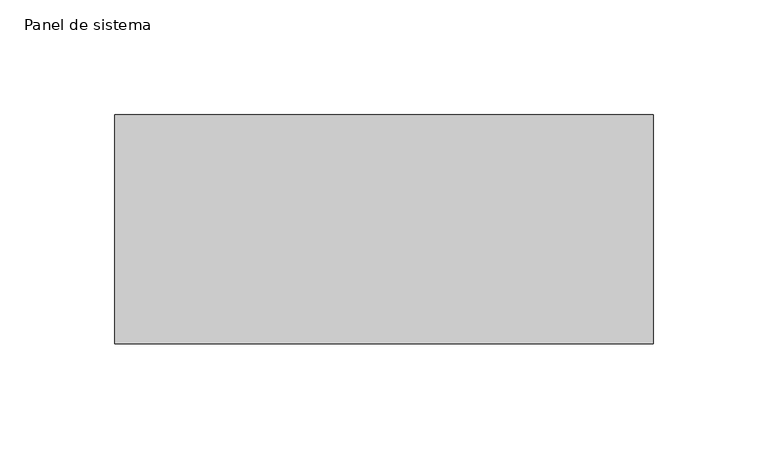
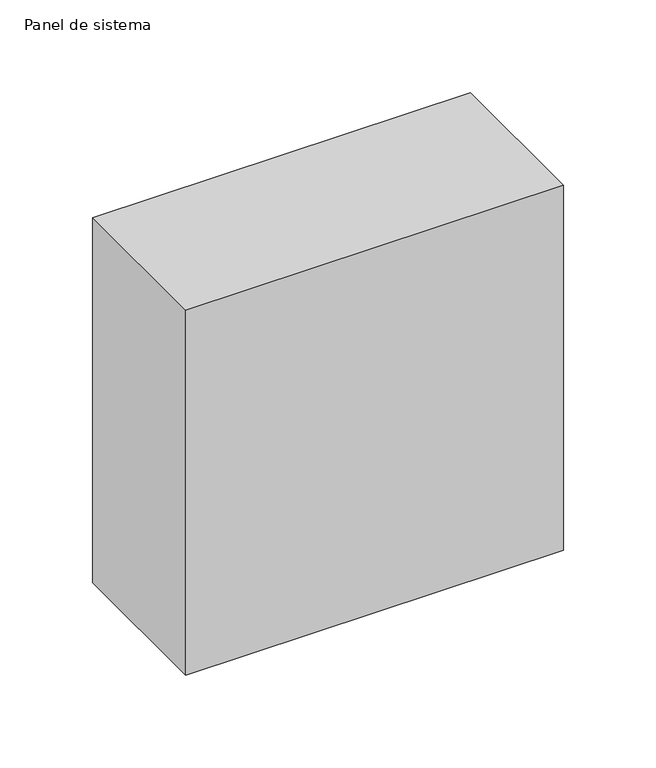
"""IFC4 building model written with IfcOpenShell, lengths in millimetres: plate geometry, Panel de sistema : PAVES."""

import ifcopenshell
import ifcopenshell.guid

model = None  # the IFC model being written
_history = None  # IfcOwnerHistory: only IFC2X3 demands one
_inside = {}  # id of a spatial element -> (the spatial element, [elements in it])
_under = {}  # id of a project, library or spatial element -> (it, [spatial elements below it])
_declared = {}  # id of a project -> (the project, [libraries it declares])
_typed = {}  # id of a type object -> (the type object, [elements of that type])
_made_of = {}  # id of a material, layer set ... -> (it, [elements and type objects made of it])


def new_model(schema):
    """Start an empty IFC model of exactly this schema.

    Asked for "IFC4X3", IfcOpenShell would pick the latest addendum, in which some entities
    have other attributes; the version numbers below select the first issue.
    IFC2X3 requires an IfcOwnerHistory on every rooted entity: one is made here for all.
    """
    global model, _history
    if schema == "IFC4X3":
        model = ifcopenshell.file(schema_version=(4, 3, 0, 0))
    else:
        model = ifcopenshell.file(schema=schema)
    _inside.clear()
    _under.clear()
    _declared.clear()
    _typed.clear()
    _made_of.clear()
    _history = None
    if model.schema == "IFC2X3":
        org = make("IfcOrganization", Name="unknown")
        user = make(
            "IfcPersonAndOrganization",
            ThePerson=make("IfcPerson", FamilyName="unknown"),
            TheOrganization=org,
        )
        app = make(
            "IfcApplication",
            ApplicationDeveloper=org,
            Version="unknown",
            ApplicationFullName="unknown",
            ApplicationIdentifier="unknown",
        )
        _history = make(
            "IfcOwnerHistory",
            OwningUser=user,
            OwningApplication=app,
            ChangeAction="ADDED",
            CreationDate=0,
        )
    return model


def make(cls, **values):
    """One entity of the class cls with the attributes given. An attribute that is None is left unset."""
    return model.create_entity(
        cls, **{name: value for name, value in values.items() if value is not None}
    )


def rooted(cls, **values):
    """An entity with a GlobalId (a new one), such as an element, a storey or a relation."""
    return make(cls, GlobalId=ifcopenshell.guid.new(), OwnerHistory=_history, **values)


def si_unit(unit_type, name, prefix=None):
    """IfcSIUnit, for example si_unit("LENGTHUNIT", "METRE", prefix="MILLI")."""
    return make("IfcSIUnit", UnitType=unit_type, Prefix=prefix, Name=name)


def assignment(units):
    """IfcUnitAssignment: the units of a project."""
    return None if units is None else make("IfcUnitAssignment", Units=units)


def point(xyz):
    """IfcCartesianPoint."""
    return None if xyz is None else make("IfcCartesianPoint", Coordinates=xyz)


def direction(xyz):
    """IfcDirection."""
    return None if xyz is None else make("IfcDirection", DirectionRatios=xyz)


def frame(location, z_axis=None, x_axis=None):
    """IfcAxis2Placement3D, a coordinate frame: its origin and axes. An axis left out is left unset."""
    return make(
        "IfcAxis2Placement3D",
        Location=point(location),
        Axis=direction(z_axis),
        RefDirection=direction(x_axis),
    )


def origin():
    """The frame at (0, 0, 0) with its axes left unset."""
    return frame((0.0, 0.0, 0.0))


def origin_with_axes():
    """The frame at (0, 0, 0) with the z axis (0, 0, 1) and the x axis (1, 0, 0) written out."""
    return frame((0.0, 0.0, 0.0), z_axis=(0.0, 0.0, 1.0), x_axis=(1.0, 0.0, 0.0))


def place(relative_to, where):
    """IfcLocalPlacement: puts the frame where relative to a parent placement (None: the world)."""
    return make(
        "IfcLocalPlacement", PlacementRelTo=relative_to, RelativePlacement=where
    )


def context(
    kind, dimensions, precision=None, world=None, true_north=None, identifier=None
):
    """IfcGeometricRepresentationContext, for example the 3D "Model" context."""
    return make(
        "IfcGeometricRepresentationContext",
        ContextIdentifier=identifier,
        ContextType=kind,
        CoordinateSpaceDimension=dimensions,
        Precision=precision,
        WorldCoordinateSystem=world,
        TrueNorth=true_north,
    )


def project(units=None, contexts=None):
    """IfcProject with its units and contexts."""
    return rooted(
        "IfcProject",
        Name="project",
        RepresentationContexts=contexts,
        UnitsInContext=assignment(units),
    )


def spatial(cls, under=None, at=None, **own):
    """A site, building, storey or space (cls), placed at a placement, below another one or the project."""
    s = rooted(cls, ObjectPlacement=at, **own)
    if under is not None:
        _under.setdefault(under.id(), (under, []))[1].append(s)
    return s


def polyline(points):
    """IfcPolyline through the points."""
    return make("IfcPolyline", Points=[point(p) for p in points])


def outline(outer, holes=None, kind="AREA"):
    """IfcArbitraryClosedProfileDef: a profile drawn as a closed curve; with holes, ...WithVoids."""
    if holes is None:
        return make("IfcArbitraryClosedProfileDef", ProfileType=kind, OuterCurve=outer)
    return make(
        "IfcArbitraryProfileDefWithVoids",
        ProfileType=kind,
        OuterCurve=outer,
        InnerCurves=holes,
    )


def extrude(swept, where, along, depth):
    """IfcExtrudedAreaSolid: the profile swept, set in the frame where, extruded along a direction by depth."""
    return make(
        "IfcExtrudedAreaSolid",
        SweptArea=swept,
        Position=where,
        ExtrudedDirection=direction(along),
        Depth=depth,
    )


def shape(context_of_items, identifier, shape_type, items):
    """IfcShapeRepresentation: the items that make up one representation, for example the "Body"."""
    return make(
        "IfcShapeRepresentation",
        ContextOfItems=context_of_items,
        RepresentationIdentifier=identifier,
        RepresentationType=shape_type,
        Items=items,
    )


def source(mapping_origin, context_of_items, identifier, shape_type, items):
    """IfcRepresentationMap: a shape defined once, which mapped items show again and again."""
    return make(
        "IfcRepresentationMap",
        MappingOrigin=mapping_origin,
        MappedRepresentation=shape(context_of_items, identifier, shape_type, items),
    )


def transform(
    local_origin,
    x_axis=None,
    y_axis=None,
    z_axis=None,
    scale=None,
    scale2=None,
    scale3=None,
    uniform=True,
):
    """IfcCartesianTransformationOperator3D, or its non-uniform kind. x_axis, y_axis, z_axis: its Axis1, 2, 3."""
    if uniform:
        return make(
            "IfcCartesianTransformationOperator3D",
            Axis1=direction(x_axis),
            Axis2=direction(y_axis),
            LocalOrigin=point(local_origin),
            Scale=scale,
            Axis3=direction(z_axis),
        )
    return make(
        "IfcCartesianTransformationOperator3DnonUniform",
        Axis1=direction(x_axis),
        Axis2=direction(y_axis),
        LocalOrigin=point(local_origin),
        Scale=scale,
        Axis3=direction(z_axis),
        Scale2=scale2,
        Scale3=scale3,
    )


def mapped(mapping_source, mapping_target):
    """IfcMappedItem: shows the shape of a source again, moved by a transform."""
    return make(
        "IfcMappedItem", MappingSource=mapping_source, MappingTarget=mapping_target
    )


def made_of(thing, what):
    """Note that an element or type object is made of a material, layer set ...; save() writes the relation."""
    if what is not None:
        _made_of.setdefault(what.id(), (what, []))[1].append(thing)
    return thing


def element(
    cls,
    number,
    at=None,
    inside=None,
    cuts=None,
    type_object=None,
    material=None,
    context=None,
    identifier="Body",
    shape_type=None,
    held_by="IfcProductDefinitionShape",
    body=None,
    shapes=None,
    **own,
):
    """One element of the class cls, such as IfcWall. Its Tag is "e" and its number.

    at: its placement. inside: the storey or other place that contains it. cuts: it is an
    opening in that element (IfcRelVoidsElement). A single representation is given by context,
    identifier, shape_type and body (its items); several are given by shapes. held_by: the class
    of the entity that holds the representations. save() writes the other relations.
    """
    e = rooted(cls, Tag="e%d" % number, ObjectPlacement=at, **own)
    if body is not None:
        shapes = [shape(context, identifier, shape_type, body)]
    if shapes is not None:
        e.Representation = make(held_by, Representations=shapes)
    if inside is not None:
        _inside.setdefault(inside.id(), (inside, []))[1].append(e)
    if cuts is not None:
        rooted(
            "IfcRelVoidsElement", RelatingBuildingElement=cuts, RelatedOpeningElement=e
        )
    if type_object is not None:
        _typed.setdefault(type_object.id(), (type_object, []))[1].append(e)
    return made_of(e, material)


def aggregate(whole, parts):
    """IfcRelAggregates: a whole, such as a stair, and the parts it consists of."""
    return rooted("IfcRelAggregates", RelatingObject=whole, RelatedObjects=parts)


def save(model, path):
    """Write the relations noted so far, then the file.

    IfcRelAggregates (storeys below a building ...), IfcRelContainedInSpatialStructure (elements
    in a storey), IfcRelDefinesByType, IfcRelAssociatesMaterial and IfcRelDeclares: one each for
    every whole, place, type object, material and project.
    """
    for whole, parts in _under.values():
        aggregate(whole, parts)
    for where, things in _inside.values():
        rooted(
            "IfcRelContainedInSpatialStructure",
            RelatedElements=things,
            RelatingStructure=where,
        )
    for kind, things in _typed.values():
        rooted("IfcRelDefinesByType", RelatedObjects=things, RelatingType=kind)
    for what, things in _made_of.values():
        rooted("IfcRelAssociatesMaterial", RelatedObjects=things, RelatingMaterial=what)
    for by, libraries in _declared.values():
        rooted("IfcRelDeclares", RelatingContext=by, RelatedDefinitions=libraries)
    model.write(path)


def panel_de_sistema_1f3cf019(model_context):
    return source(origin(), model_context, "Body", "SweptSolid", [
        extrude(outline(polyline([(117.5, -50.0), (-117.5, -50.0), (-117.5, 50.0), (117.5, 50.0), (117.5, -50.0)])), origin_with_axes(), (0.0, 0.0, 1.0), 240.0),
    ])


if __name__ == "__main__":
    model = new_model("IFC4")
    model_context = context("Model", 3, world=origin())
    ifc_project = project(units=[si_unit("LENGTHUNIT", "METRE", prefix="MILLI")], contexts=[model_context])
    site = spatial("IfcSite", under=ifc_project)
    building = spatial("IfcBuilding", under=site)
    placement = place(None, origin())
    panel_de_sistema_shape = panel_de_sistema_1f3cf019(model_context)
    element("IfcPlate", 1, ObjectType="Panel de sistema : PAVES", at=placement, inside=building, context=model_context, shape_type="MappedRepresentation", body=[
        mapped(panel_de_sistema_shape, transform((0.0, 0.0, 0.0), x_axis=(1.0, 0.0, 0.0), y_axis=(0.0, 1.0, 0.0), z_axis=(0.0, 0.0, 1.0))),
    ])
    save(model, "model.ifc")
